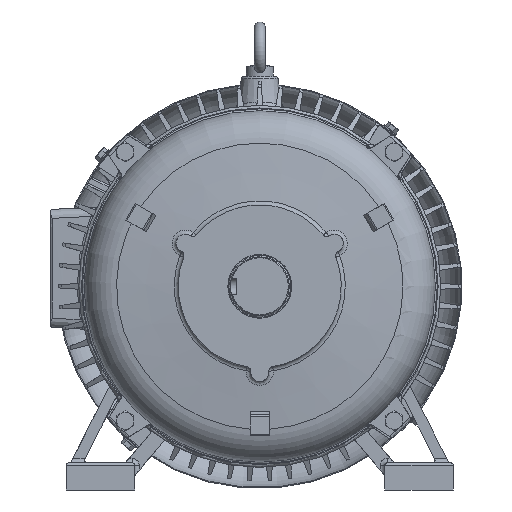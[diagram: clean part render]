
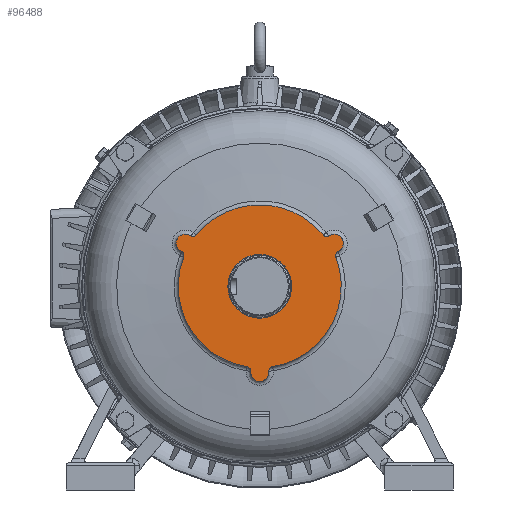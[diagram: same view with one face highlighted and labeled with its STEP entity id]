
A CAD part, front view. The second image highlights one B-rep face of the part: STEP entity #96488.
In plain terms, the highlighted planar face has unit normal (0, -1, 0).
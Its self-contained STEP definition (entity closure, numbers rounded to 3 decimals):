
#3482=CIRCLE('',#101766,90.);
#3484=CIRCLE('',#101769,90.);
#3486=CIRCLE('',#101772,90.);
#3551=CIRCLE('',#101883,10.);
#3552=CIRCLE('',#101884,5.);
#3553=CIRCLE('',#101885,5.);
#3554=CIRCLE('',#101886,10.);
#3555=CIRCLE('',#101887,5.);
#3556=CIRCLE('',#101888,5.);
#3557=CIRCLE('',#101889,10.);
#3558=CIRCLE('',#101890,5.);
#3559=CIRCLE('',#101891,5.);
#3560=CIRCLE('',#101892,35.25);
#8301=ORIENTED_EDGE('',*,*,#32145,.F.);
#8302=ORIENTED_EDGE('',*,*,#32146,.T.);
#8303=ORIENTED_EDGE('',*,*,#31905,.T.);
#8304=ORIENTED_EDGE('',*,*,#32147,.T.);
#8305=ORIENTED_EDGE('',*,*,#32148,.F.);
#8306=ORIENTED_EDGE('',*,*,#32149,.T.);
#8307=ORIENTED_EDGE('',*,*,#31901,.T.);
#8308=ORIENTED_EDGE('',*,*,#32150,.T.);
#8309=ORIENTED_EDGE('',*,*,#32151,.F.);
#8310=ORIENTED_EDGE('',*,*,#32152,.T.);
#8311=ORIENTED_EDGE('',*,*,#31909,.T.);
#8312=ORIENTED_EDGE('',*,*,#32153,.T.);
#8313=ORIENTED_EDGE('',*,*,#32154,.F.);
#31901=EDGE_CURVE('',#44147,#44150,#3482,.T.);
#31905=EDGE_CURVE('',#44151,#44154,#3484,.T.);
#31909=EDGE_CURVE('',#44155,#44158,#3486,.T.);
#32145=EDGE_CURVE('',#44344,#44345,#3551,.T.);
#32146=EDGE_CURVE('',#44344,#44151,#3552,.T.);
#32147=EDGE_CURVE('',#44154,#44346,#3553,.T.);
#32148=EDGE_CURVE('',#44347,#44346,#3554,.T.);
#32149=EDGE_CURVE('',#44347,#44147,#3555,.T.);
#32150=EDGE_CURVE('',#44150,#44348,#3556,.T.);
#32151=EDGE_CURVE('',#44349,#44348,#3557,.T.);
#32152=EDGE_CURVE('',#44349,#44155,#3558,.T.);
#32153=EDGE_CURVE('',#44158,#44345,#3559,.T.);
#32154=EDGE_CURVE('',#44350,#44350,#3560,.T.);
#44147=VERTEX_POINT('',#143449);
#44150=VERTEX_POINT('',#143454);
#44151=VERTEX_POINT('',#143458);
#44154=VERTEX_POINT('',#143463);
#44155=VERTEX_POINT('',#143467);
#44158=VERTEX_POINT('',#143472);
#44344=VERTEX_POINT('',#144962);
#44345=VERTEX_POINT('',#144963);
#44346=VERTEX_POINT('',#144966);
#44347=VERTEX_POINT('',#144968);
#44348=VERTEX_POINT('',#144971);
#44349=VERTEX_POINT('',#144973);
#44350=VERTEX_POINT('',#144977);
#71968=EDGE_LOOP('',(#8301,#8302,#8303,#8304,#8305,#8306,#8307,#8308,#8309,
#8310,#8311,#8312));
#71969=EDGE_LOOP('',(#8313));
#78415=FACE_BOUND('',#71968,.T.);
#78416=FACE_BOUND('',#71969,.T.);
#84191=PLANE('',#101882);
#96488=ADVANCED_FACE('',(#78415,#78416),#84191,.F.);
#101766=AXIS2_PLACEMENT_3D('',#143455,#109739,#109740);
#101769=AXIS2_PLACEMENT_3D('',#143464,#109747,#109748);
#101772=AXIS2_PLACEMENT_3D('',#143473,#109755,#109756);
#101882=AXIS2_PLACEMENT_3D('',#144960,#110056,#110057);
#101883=AXIS2_PLACEMENT_3D('',#144961,#110058,#110059);
#101884=AXIS2_PLACEMENT_3D('',#144964,#110060,#110061);
#101885=AXIS2_PLACEMENT_3D('',#144965,#110062,#110063);
#101886=AXIS2_PLACEMENT_3D('',#144967,#110064,#110065);
#101887=AXIS2_PLACEMENT_3D('',#144969,#110066,#110067);
#101888=AXIS2_PLACEMENT_3D('',#144970,#110068,#110069);
#101889=AXIS2_PLACEMENT_3D('',#144972,#110070,#110071);
#101890=AXIS2_PLACEMENT_3D('',#144974,#110072,#110073);
#101891=AXIS2_PLACEMENT_3D('',#144975,#110074,#110075);
#101892=AXIS2_PLACEMENT_3D('',#144976,#110076,#110077);
#109739=DIRECTION('',(0.,-1.,0.));
#109740=DIRECTION('',(1.,0.,0.));
#109747=DIRECTION('',(0.,-1.,0.));
#109748=DIRECTION('',(1.,0.,0.));
#109755=DIRECTION('',(0.,-1.,0.));
#109756=DIRECTION('',(1.,0.,0.));
#110056=DIRECTION('',(0.,1.,0.));
#110057=DIRECTION('',(-1.,0.,0.));
#110058=DIRECTION('',(0.,1.,0.));
#110059=DIRECTION('',(-0.5,0.,0.866));
#110060=DIRECTION('',(0.,1.,0.));
#110061=DIRECTION('',(-1.,0.,0.));
#110062=DIRECTION('',(0.,1.,0.));
#110063=DIRECTION('',(-1.,0.,0.));
#110064=DIRECTION('',(0.,1.,0.));
#110065=DIRECTION('',(-0.5,0.,-0.866));
#110066=DIRECTION('',(0.,1.,0.));
#110067=DIRECTION('',(-1.,0.,0.));
#110068=DIRECTION('',(0.,1.,0.));
#110069=DIRECTION('',(-1.,0.,0.));
#110070=DIRECTION('',(0.,1.,0.));
#110071=DIRECTION('',(1.,0.,0.));
#110072=DIRECTION('',(0.,1.,0.));
#110073=DIRECTION('',(-1.,0.,0.));
#110074=DIRECTION('',(0.,1.,0.));
#110075=DIRECTION('',(-1.,0.,0.));
#110076=DIRECTION('',(0.,-1.,0.));
#110077=DIRECTION('',(1.,0.,0.));
#143449=CARTESIAN_POINT('',(-84.054,0.,32.171));
#143454=CARTESIAN_POINT('',(-14.166,0.,-88.878));
#143455=CARTESIAN_POINT('',(0.,0.,0.));
#143458=CARTESIAN_POINT('',(69.888,0.,56.707));
#143463=CARTESIAN_POINT('',(-69.888,0.,56.707));
#143464=CARTESIAN_POINT('',(0.,0.,0.));
#143467=CARTESIAN_POINT('',(14.166,0.,-88.878));
#143472=CARTESIAN_POINT('',(84.054,0.,32.171));
#143473=CARTESIAN_POINT('',(0.,0.,0.));
#144960=CARTESIAN_POINT('',(0.,0.,90.));
#144961=CARTESIAN_POINT('',(82.272,0.,47.5));
#144962=CARTESIAN_POINT('',(76.604,0.,55.738));
#144963=CARTESIAN_POINT('',(86.573,0.,38.472));
#144964=CARTESIAN_POINT('',(73.77,0.,59.858));
#144965=CARTESIAN_POINT('',(-73.77,0.,59.858));
#144966=CARTESIAN_POINT('',(-76.604,0.,55.738));
#144967=CARTESIAN_POINT('',(-82.272,0.,47.5));
#144968=CARTESIAN_POINT('',(-86.573,0.,38.472));
#144969=CARTESIAN_POINT('',(-88.723,0.,33.958));
#144970=CARTESIAN_POINT('',(-14.953,0.,-93.816));
#144971=CARTESIAN_POINT('',(-9.969,0.,-94.211));
#144972=CARTESIAN_POINT('',(0.,0.,-95.));
#144973=CARTESIAN_POINT('',(9.969,0.,-94.211));
#144974=CARTESIAN_POINT('',(14.953,0.,-93.816));
#144975=CARTESIAN_POINT('',(88.723,0.,33.958));
#144976=CARTESIAN_POINT('',(0.,0.,0.));
#144977=CARTESIAN_POINT('',(35.25,0.,0.));
